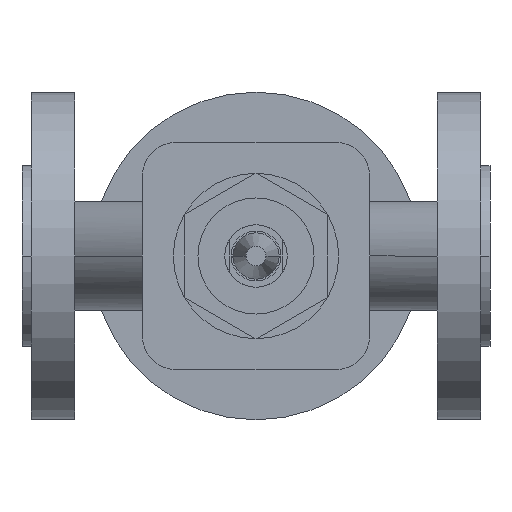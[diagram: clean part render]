
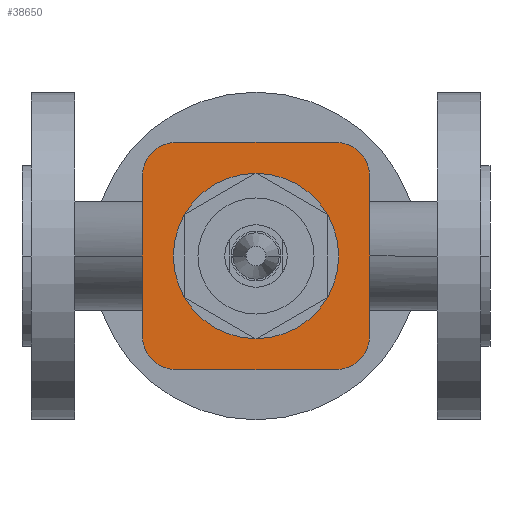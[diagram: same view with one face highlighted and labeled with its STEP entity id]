
A CAD part, front view. The second image highlights one B-rep face of the part: STEP entity #38650.
In plain terms, the highlighted planar face has unit normal (0, -1, 0).
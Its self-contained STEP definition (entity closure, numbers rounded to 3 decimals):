
#10010=CARTESIAN_POINT('',(101.5,-70.,0.));
#10020=VERTEX_POINT('',#10010);
#10050=CARTESIAN_POINT('',(75.,-70.,0.));
#10060=DIRECTION('',(0.,-1.,0.));
#10070=DIRECTION('',(-1.,0.,0.));
#10080=AXIS2_PLACEMENT_3D('',#10050,#10060,#10070);
#10090=CIRCLE('',#10080,26.5);
#10100=CARTESIAN_POINT('',(48.5,-70.,0.));
#10110=VERTEX_POINT('',#10100);
#10120=EDGE_CURVE('',#10110,#10020,#10090,.T.);
#33230=CARTESIAN_POINT('',(111.456,-70.,-25.456));
#33240=VERTEX_POINT('',#33230);
#33270=CARTESIAN_POINT('',(111.456,-70.,12.728));
#33280=DIRECTION('',(0.,0.,1.));
#33290=VECTOR('',#33280,1.);
#33300=LINE('',#33270,#33290);
#33310=CARTESIAN_POINT('',(111.456,-70.,25.456));
#33320=VERTEX_POINT('',#33310);
#33330=EDGE_CURVE('',#33240,#33320,#33300,.T.);
#33920=CARTESIAN_POINT('',(100.456,-70.,-36.456));
#33930=VERTEX_POINT('',#33920);
#33980=CARTESIAN_POINT('',(100.456,-70.,-25.456));
#33990=DIRECTION('',(0.,-1.,0.));
#34000=DIRECTION('',(1.,0.,0.));
#34010=AXIS2_PLACEMENT_3D('',#33980,#33990,#34000);
#34020=CIRCLE('',#34010,11.);
#34030=EDGE_CURVE('',#33930,#33240,#34020,.T.);
#34820=CARTESIAN_POINT('',(49.544,-70.,-36.456));
#34830=VERTEX_POINT('',#34820);
#34860=CARTESIAN_POINT('',(69.103,-70.,-36.456));
#34870=DIRECTION('',(1.,0.,0.));
#34880=VECTOR('',#34870,1.);
#34890=LINE('',#34860,#34880);
#34900=EDGE_CURVE('',#34830,#33930,#34890,.T.);
#35660=CARTESIAN_POINT('',(38.544,-70.,-25.456));
#35670=VERTEX_POINT('',#35660);
#35720=CARTESIAN_POINT('',(49.544,-70.,-25.456));
#35730=DIRECTION('',(0.,-1.,0.));
#35740=DIRECTION('',(0.,0.,-1.));
#35750=AXIS2_PLACEMENT_3D('',#35720,#35730,#35740);
#35760=CIRCLE('',#35750,11.);
#35770=EDGE_CURVE('',#35670,#34830,#35760,.T.);
#36510=CARTESIAN_POINT('',(38.544,-70.,25.456));
#36520=VERTEX_POINT('',#36510);
#36550=CARTESIAN_POINT('',(38.544,-70.,-12.728));
#36560=DIRECTION('',(0.,0.,-1.));
#36570=VECTOR('',#36560,1.);
#36580=LINE('',#36550,#36570);
#36590=EDGE_CURVE('',#36520,#35670,#36580,.T.);
#36870=CARTESIAN_POINT('',(49.544,-70.,36.456));
#36880=VERTEX_POINT('',#36870);
#36930=CARTESIAN_POINT('',(49.544,-70.,25.456));
#36940=DIRECTION('',(0.,-1.,0.));
#36950=DIRECTION('',(-1.,0.,0.));
#36960=AXIS2_PLACEMENT_3D('',#36930,#36940,#36950);
#36970=CIRCLE('',#36960,11.);
#36980=EDGE_CURVE('',#36880,#36520,#36970,.T.);
#37290=CARTESIAN_POINT('',(100.456,-70.,36.456));
#37300=VERTEX_POINT('',#37290);
#37330=CARTESIAN_POINT('',(43.647,-70.,36.456));
#37340=DIRECTION('',(-1.,0.,0.));
#37350=VECTOR('',#37340,1.);
#37360=LINE('',#37330,#37350);
#37370=EDGE_CURVE('',#37300,#36880,#37360,.T.);
#37620=CARTESIAN_POINT('',(100.456,-70.,25.456));
#37630=DIRECTION('',(0.,-1.,0.));
#37640=DIRECTION('',(0.,0.,1.));
#37650=AXIS2_PLACEMENT_3D('',#37620,#37630,#37640);
#37660=CIRCLE('',#37650,11.);
#37670=EDGE_CURVE('',#33320,#37300,#37660,.T.);
#38450=CARTESIAN_POINT('',(37.75,-70.,0.));
#38460=DIRECTION('',(0.,-1.,0.));
#38470=DIRECTION('',(-1.,0.,0.));
#38480=AXIS2_PLACEMENT_3D('',#38450,#38460,#38470);
#38490=PLANE('',#38480);
#38500=ORIENTED_EDGE('',*,*,#36980,.T.);
#38510=ORIENTED_EDGE('',*,*,#37370,.T.);
#38520=ORIENTED_EDGE('',*,*,#37670,.T.);
#38530=ORIENTED_EDGE('',*,*,#33330,.T.);
#38540=ORIENTED_EDGE('',*,*,#34030,.T.);
#38550=ORIENTED_EDGE('',*,*,#34900,.T.);
#38560=ORIENTED_EDGE('',*,*,#35770,.T.);
#38570=ORIENTED_EDGE('',*,*,#36590,.T.);
#38580=EDGE_LOOP('',(#38570,#38560,#38550,#38540,#38530,#38520,#38510,
#38500));
#38590=FACE_OUTER_BOUND('',#38580,.T.);
#38600=EDGE_CURVE('',#10020,#10110,#10090,.T.);
#38610=ORIENTED_EDGE('',*,*,#38600,.F.);
#38620=ORIENTED_EDGE('',*,*,#10120,.F.);
#38630=EDGE_LOOP('',(#38620,#38610));
#38640=FACE_BOUND('',#38630,.T.);
#38650=ADVANCED_FACE('',(#38590,#38640),#38490,.T.);
